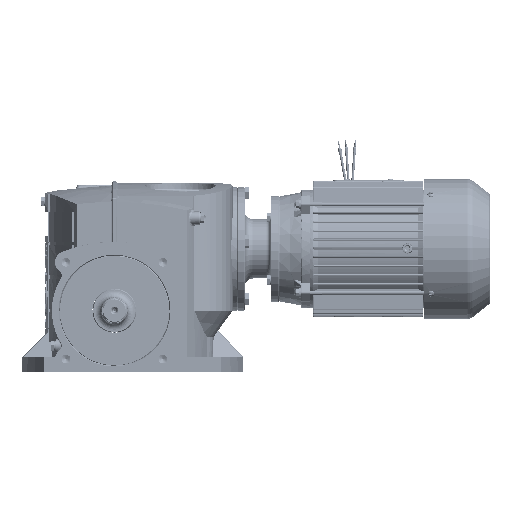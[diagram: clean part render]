
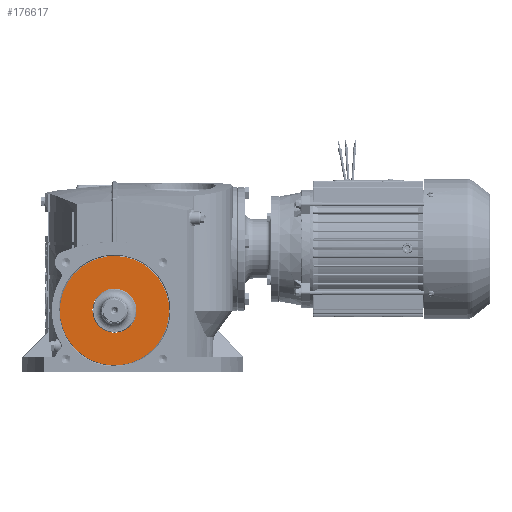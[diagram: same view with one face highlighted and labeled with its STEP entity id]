
A CAD part, left-side view. The second image highlights one B-rep face of the part: STEP entity #176617.
In plain terms, the highlighted planar face has unit normal (-1, 0, 0).
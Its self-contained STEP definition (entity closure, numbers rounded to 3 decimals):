
#6228 = VERTEX_POINT ( 'NONE', #297591 ) ;
#8152 = CARTESIAN_POINT ( 'NONE',  ( 0., 0., 0. ) ) ;
#21828 = AXIS2_PLACEMENT_3D ( 'NONE', #394717, #241640, #303966 ) ;
#25064 = DIRECTION ( 'NONE',  ( 0., 0., 1. ) ) ;
#27969 = CARTESIAN_POINT ( 'NONE',  ( 0., 0., 25. ) ) ;
#33003 = EDGE_CURVE ( 'NONE', #92852, #61059, #194944, .T. ) ;
#44611 = DIRECTION ( 'NONE',  ( 1., 0., 0. ) ) ;
#53519 = AXIS2_PLACEMENT_3D ( 'NONE', #8152, #66575, #217712 ) ;
#61059 = VERTEX_POINT ( 'NONE', #371420 ) ;
#66575 = DIRECTION ( 'NONE',  ( -1., 0., 0. ) ) ;
#70807 = FACE_OUTER_BOUND ( 'NONE', #243228, .T. ) ;
#92852 = VERTEX_POINT ( 'NONE', #132721 ) ;
#99059 = DIRECTION ( 'NONE',  ( 0., 0., -1. ) ) ;
#105012 = PLANE ( 'NONE',  #231893 ) ;
#106544 = EDGE_LOOP ( 'NONE', ( #382164, #333609 ) ) ;
#118688 = DIRECTION ( 'NONE',  ( 0., 0., 1. ) ) ;
#126209 = EDGE_CURVE ( 'NONE', #61059, #92852, #361876, .T. ) ;
#132721 = CARTESIAN_POINT ( 'NONE',  ( 0., 0., 62. ) ) ;
#133567 = EDGE_CURVE ( 'NONE', #391320, #6228, #336666, .T. ) ;
#143782 = CARTESIAN_POINT ( 'NONE',  ( 0., 0., 0. ) ) ;
#176617 = ADVANCED_FACE ( 'NONE', ( #374974, #70807 ), #105012, .F. ) ;
#188124 = AXIS2_PLACEMENT_3D ( 'NONE', #143782, #393516, #25064 ) ;
#194944 = CIRCLE ( 'NONE', #278581, 62. ) ;
#217712 = DIRECTION ( 'NONE',  ( 0., 0., 1. ) ) ;
#231893 = AXIS2_PLACEMENT_3D ( 'NONE', #259988, #44611, #99059 ) ;
#239560 = DIRECTION ( 'NONE',  ( -1., 0., 0. ) ) ;
#241537 = CARTESIAN_POINT ( 'NONE',  ( 0., 0., 0. ) ) ;
#241640 = DIRECTION ( 'NONE',  ( -1., 0., 0. ) ) ;
#243228 = EDGE_LOOP ( 'NONE', ( #330303, #345610 ) ) ;
#259988 = CARTESIAN_POINT ( 'NONE',  ( 0., 62., 0. ) ) ;
#278581 = AXIS2_PLACEMENT_3D ( 'NONE', #241537, #239560, #118688 ) ;
#297591 = CARTESIAN_POINT ( 'NONE',  ( 0., 0., -25. ) ) ;
#303966 = DIRECTION ( 'NONE',  ( 0., 0., 1. ) ) ;
#330303 = ORIENTED_EDGE ( 'NONE', *, *, #126209, .T. ) ;
#333609 = ORIENTED_EDGE ( 'NONE', *, *, #396311, .F. ) ;
#336666 = CIRCLE ( 'NONE', #53519, 25. ) ;
#345610 = ORIENTED_EDGE ( 'NONE', *, *, #33003, .T. ) ;
#361876 = CIRCLE ( 'NONE', #188124, 62. ) ;
#371420 = CARTESIAN_POINT ( 'NONE',  ( 0., 0., -62. ) ) ;
#374974 = FACE_BOUND ( 'NONE', #106544, .T. ) ;
#375599 = CIRCLE ( 'NONE', #21828, 25. ) ;
#382164 = ORIENTED_EDGE ( 'NONE', *, *, #133567, .F. ) ;
#391320 = VERTEX_POINT ( 'NONE', #27969 ) ;
#393516 = DIRECTION ( 'NONE',  ( -1., 0., 0. ) ) ;
#394717 = CARTESIAN_POINT ( 'NONE',  ( 0., 0., 0. ) ) ;
#396311 = EDGE_CURVE ( 'NONE', #6228, #391320, #375599, .T. ) ;
